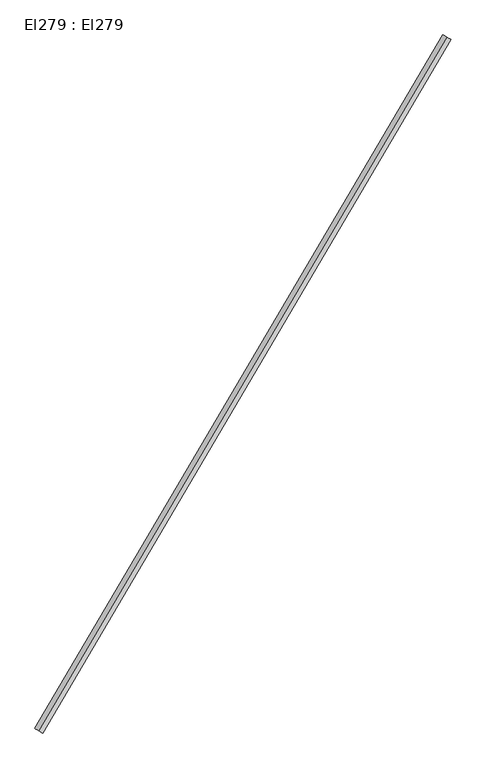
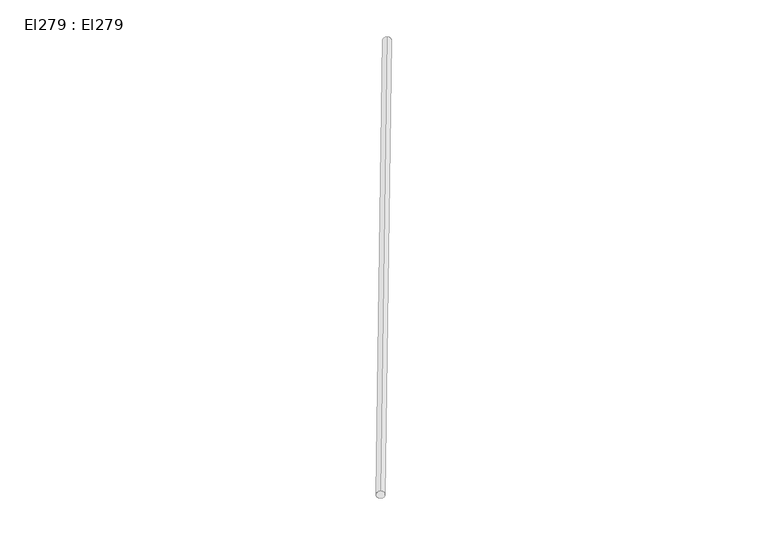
"""IFC4 building model written with IfcOpenShell, lengths in millimetres: cable carrier segment geometry, El279 : El279."""

from ifc_helpers import new_model, si_unit, point, frame, frame_2d, origin, place, context, project, spatial, circle_curve, trimmed, segment, composite_curve, outline, extrude, source, transform, mapped, element, save


def el279_el279_38466dea(model_context):
    return source(origin(), model_context, "Body", "SweptSolid", [
        extrude(outline(composite_curve([segment(trimmed(circle_curve(frame_2d((0.0, -9.5)), 9.5), [point((0.0, -19.0))], [point((0.0, 0.0))], False, "CARTESIAN"), True, "CONTINUOUS"), segment(trimmed(circle_curve(frame_2d((0.0, -9.5)), 9.5), [point((0.0, 0.0))], [point((0.0, -19.0))], False, "CARTESIAN"), True, "CONTINUOUS")], self_intersect=False)), frame((9615.83, 25511.608, 2959.5), z_axis=(0.5070182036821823, 0.8619353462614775, 0.0), x_axis=(-0.8619353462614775, 0.5070182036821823, 0.0)), (0.0, 0.0, 1.0), 1661.36),
    ])


if __name__ == "__main__":
    model = new_model("IFC4")
    model_context = context("Model", 3, world=origin())
    ifc_project = project(units=[si_unit("LENGTHUNIT", "METRE", prefix="MILLI")], contexts=[model_context])
    site = spatial("IfcSite", under=ifc_project)
    building = spatial("IfcBuilding", under=site)
    placement = place(None, origin())
    el279_el279_shape = el279_el279_38466dea(model_context)
    element("IfcCableCarrierSegment", 1, ObjectType="El279 : El279", at=placement, inside=building, context=model_context, shape_type="MappedRepresentation", body=[
        mapped(el279_el279_shape, transform((0.0, 0.0, 0.0), x_axis=(1.0, 0.0, 0.0), y_axis=(0.0, 1.0, 0.0), z_axis=(0.0, 0.0, 1.0))),
    ])
    save(model, "model.ifc")
